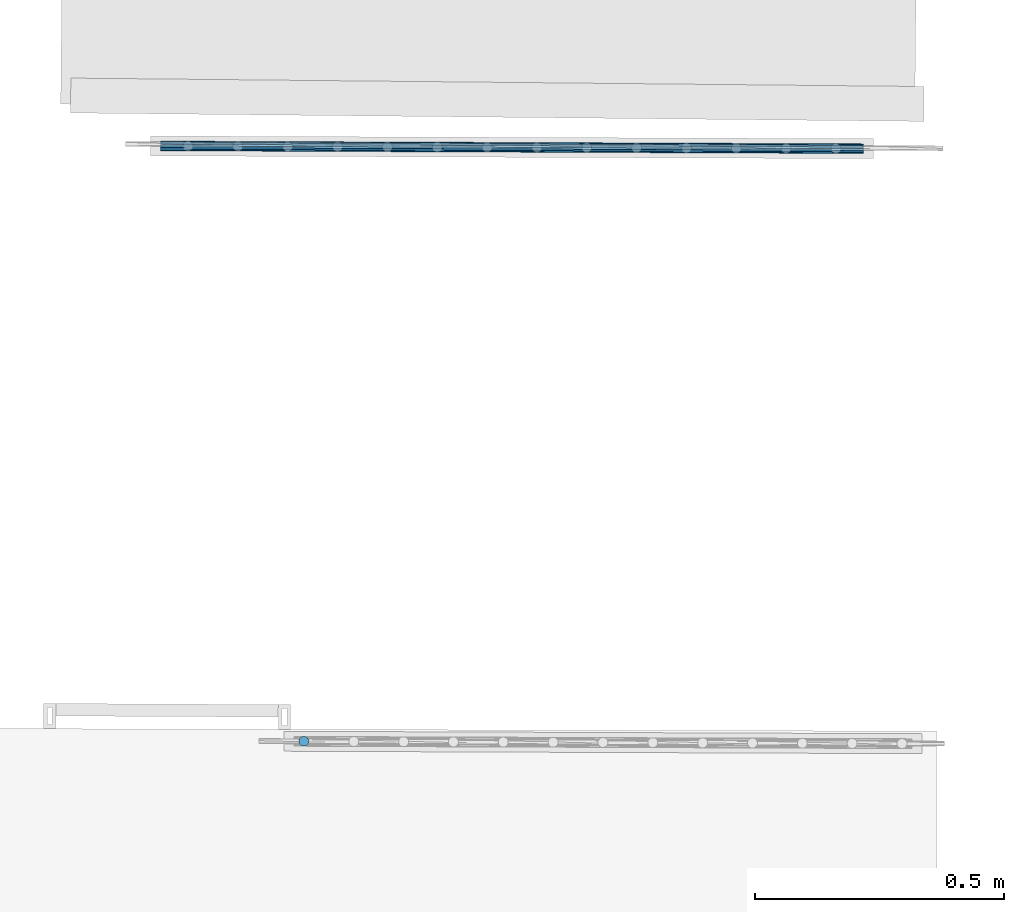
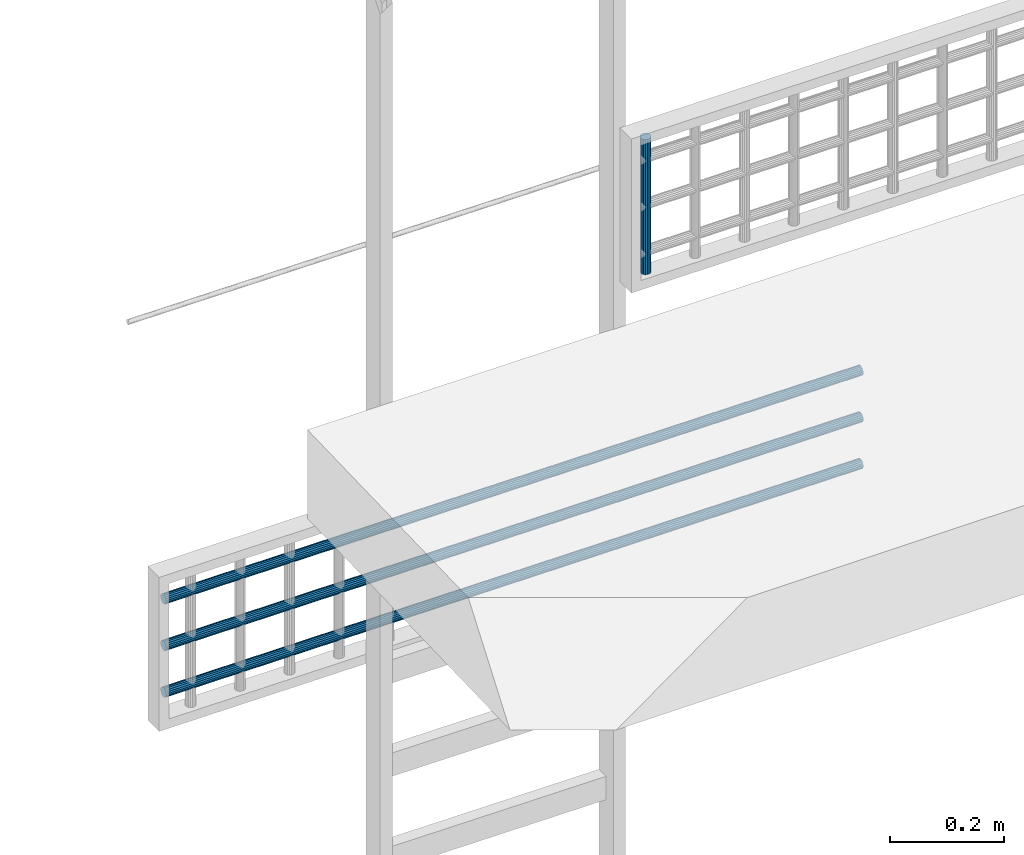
# One storey, part 14 of 39: 4 members, 2 elements without a shape of their own.
"""IFC2X3 building model written with IfcOpenShell, lengths in centimetres."""

from ifc_helpers import new_model, entity, si_unit, converted_unit, direction, frame, origin, origin_with_axes, place, context, subcontext, project, spatial, faceted_brep, material, type_object, element, aggregate, save


model = new_model("IFC2X3")

# Units and contexts
model_context = context("Model", 3, precision=0.0001, world=origin(), true_north=direction((0.225632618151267, 0.974212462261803, 0.0)))
body_context = subcontext(model_context, "Body", "Model", "MODEL_VIEW")
ifc_project = project(units=[si_unit("LENGTHUNIT", "METRE", prefix="CENTI"), si_unit("AREAUNIT", "SQUARE_METRE", prefix="CENTI"), si_unit("VOLUMEUNIT", "CUBIC_METRE", prefix="CENTI"), converted_unit("PLANEANGLEUNIT", "DEGREE", entity("IfcRatioMeasure", 0.0174532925), si_unit("PLANEANGLEUNIT", "RADIAN"), dimensions=[0, 0, 0, 0, 0, 0, 0])], contexts=[model_context])

# Site, building, storey
site_placement = place(None, origin_with_axes())
site = spatial("IfcSite", under=ifc_project, at=site_placement, Name="Default Site", CompositionType="ELEMENT")
building_placement = place(site_placement, origin_with_axes())
building = spatial("IfcBuilding", under=site, at=building_placement, Name="Default Building", CompositionType="ELEMENT")
storey_placement = place(building_placement, frame((0.0, 0.0, 1088.91037418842), z_axis=(0.0, 0.0, 1.0), x_axis=(1.0, 0.0, 0.0)))
storey = spatial("IfcBuildingStorey", under=building, at=storey_placement, Name="Mezzanine", CompositionType="ELEMENT", Elevation=1088.91037418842)

# Assembly, members
building_element_proxy_type = type_object("IfcBuildingElementProxyType", Name="Type Object", PredefinedType="NOTDEFINED")
assembly_1_placement = place(storey_placement, frame((1135.88365779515, -230.612962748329, -220.0), z_axis=(0.0, 0.0, 1.0), x_axis=(0.999992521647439, -0.00386738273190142, 0.0)))
assembly_1 = element("IfcElementAssembly", 1, at=assembly_1_placement, inside=storey, type_object=building_element_proxy_type, Name="Panneau 1519653", ObjectType="Precast panel", PredefinedType="USERDEFINED")
ifc_material = material(Name="Blanc trafic")
member_1_placement = place(assembly_1_placement, frame((142.99999475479, 0.342020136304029, 25.5603075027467), z_axis=(0.999999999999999, 3.440390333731e-14, 1.98632343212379e-14), x_axis=(3.97264686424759e-14, -0.866024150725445, -0.500002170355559)))
member_1 = element("IfcMember", 2, at=member_1_placement, material=ifc_material, Name="4294967251", context=body_context, shape_type="Brep", body=[
    faceted_brep([(-1.0547118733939e-13, -1.77635683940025e-13, 5.10702591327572e-13), (-0.347296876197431, -1.94289029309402e-13, 5.24499319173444e-13), (-0.673647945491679, -0.118779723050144, 5.37463953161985e-13), (-0.9396937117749, -0.342018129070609, 5.4803289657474e-13), (-1.11334216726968, -0.642784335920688, 5.54931261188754e-13), (-1.1736511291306, -0.984805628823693, 5.57327097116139e-13), (-1.11334356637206, -1.32682410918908, 5.54931316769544e-13), (-0.939696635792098, -1.62759289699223, 5.48033012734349e-13), (-0.673653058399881, -1.85083187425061, 5.37464156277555e-13), (-0.347301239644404, -1.96961451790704, 5.24499492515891e-13), (-4.36344708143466e-06, -1.96961451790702, 5.10702764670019e-13), (0.326346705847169, -1.85083479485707, 4.97738130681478e-13), (0.592392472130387, -1.62759638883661, 4.87169187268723e-13), (0.766040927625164, -1.32683018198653, 4.80270822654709e-13), (0.826349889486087, -0.984808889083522, 4.77874986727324e-13), (0.766042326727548, -0.642790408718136, 4.80270767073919e-13), (0.592395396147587, -0.342021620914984, 4.87169071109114e-13), (0.326351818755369, -0.118782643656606, 4.97737927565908e-13), (0.326351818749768, -0.118782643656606, -140.999994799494), (0.592395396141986, -0.342021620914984, -140.999994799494), (0.766042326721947, -0.642790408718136, -140.999994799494), (0.826349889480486, -0.984808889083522, -140.999994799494), (0.766040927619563, -1.32683018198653, -140.999994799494), (0.592392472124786, -1.62759638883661, -140.999994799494), (0.326346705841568, -1.85083479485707, -140.999994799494), (-4.36345268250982e-06, -1.96961451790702, -140.999994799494), (-0.347301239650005, -1.96961451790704, -140.999994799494), (-0.673653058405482, -1.85083187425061, -140.999994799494), (-0.939696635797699, -1.62759289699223, -140.999994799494), (-1.11334356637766, -1.32682410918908, -140.999994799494), (-1.1736511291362, -0.984805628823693, -140.999994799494), (-1.11334216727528, -0.642784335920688, -140.999994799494), (-0.939693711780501, -0.342018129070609, -140.999994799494), (-0.67364794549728, -0.118779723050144, -140.999994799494), (-0.347296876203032, -1.94289029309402e-13, -140.999994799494), (-5.7065463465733e-12, -1.77635683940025e-13, -140.999994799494), (0.326351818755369, -0.118782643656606, 4.88498130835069e-13), (0.592395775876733, -0.342021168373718, 4.6629365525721e-13), (0.592395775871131, -0.342021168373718, -140.999994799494), (0.326351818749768, -0.118782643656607, -140.999994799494), (0.592395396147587, -0.342021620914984, 4.66293670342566e-13), (0.766043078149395, -0.642789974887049, 4.66293640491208e-13), (0.766043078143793, -0.642789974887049, -140.999994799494), (0.592395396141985, -0.342021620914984, -140.999994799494), (0.766042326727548, -0.642790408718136, 4.66293670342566e-13), (0.82634857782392, -0.984809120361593, 4.66293722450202e-13), (0.826348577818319, -0.984809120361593, -140.999994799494), (0.766042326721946, -0.642790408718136, -140.999994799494), (0.826349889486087, -0.984808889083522, 4.66293670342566e-13), (0.766041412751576, -1.32683026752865, 4.66293651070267e-13), (0.766041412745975, -1.32683026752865, -140.999994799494), (0.766040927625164, -1.32683018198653, 4.66293670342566e-13), (0.592392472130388, -1.62759638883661, 4.66293670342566e-13), (0.592392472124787, -1.62759638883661, -140.999994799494), (0.592392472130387, -1.62759638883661, 4.66293670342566e-13), (0.326346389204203, -1.85083441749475, 4.88498143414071e-13), (0.326346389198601, -1.85083441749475, -140.999994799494), (0.592392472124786, -1.6275963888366, -140.999994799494), (0.326346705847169, -1.85083479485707, 4.88498130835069e-13), (-3.90791495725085e-06, -1.96961576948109, 4.8849811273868e-13), (-3.90792055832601e-06, -1.96961576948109, -140.999994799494), (-4.36344708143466e-06, -1.96961451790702, 4.88498130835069e-13), (-0.347301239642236, -1.96961365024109, 5.10702591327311e-13), (-0.347301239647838, -1.96961365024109, -140.999994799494), (-0.347301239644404, -1.96961451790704, 5.10702591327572e-13), (-0.673652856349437, -1.8508313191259, 5.3290704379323e-13), (-0.673652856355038, -1.8508313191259, -140.999994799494), (-0.673653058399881, -1.85083187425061, 5.32907051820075e-13), (-0.939697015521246, -1.6275933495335, 5.55111527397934e-13), (-0.939697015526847, -1.6275933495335, -140.999994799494), (-0.939696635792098, -1.62759289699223, 5.55111512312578e-13), (-1.11334431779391, -1.32682454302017, 5.32907081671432e-13), (-1.11334431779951, -1.32682454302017, -140.999994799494), (-1.11334356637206, -1.32682410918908, 5.32907051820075e-13), (-1.17364981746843, -0.984805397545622, 5.32906999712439e-13), (-1.17364981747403, -0.984805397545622, -140.999994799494), (-1.1736511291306, -0.984805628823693, 5.32907051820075e-13), (-1.11334265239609, -0.642784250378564, 5.55111531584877e-13), (-1.11334265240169, -0.642784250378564, -140.999994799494), (-1.11334216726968, -0.642784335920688, 5.55111512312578e-13), (-0.939693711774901, -0.342018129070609, 5.55111512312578e-13), (-0.939693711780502, -0.342018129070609, -140.999994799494), (-0.9396937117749, -0.342018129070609, 5.55111512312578e-13), (-0.673647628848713, -0.118780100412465, 5.1070257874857e-13), (-0.673647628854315, -0.118780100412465, -140.999994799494), (-0.673647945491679, -0.118779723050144, 5.10702591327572e-13), (-0.347297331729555, 1.25157387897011e-06, 5.10702609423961e-13), (-0.347297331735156, 1.25157387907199e-06, -140.999994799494), (-0.347296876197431, -1.94289029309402e-13, 5.10702591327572e-13), (-2.27319637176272e-12, -8.67666126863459e-07, 5.10702591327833e-13), (-7.87427153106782e-12, -8.67666126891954e-07, -140.999994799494), (-0.347296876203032, -1.9431752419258e-13, -140.999994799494), (0.326351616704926, -0.118783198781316, 4.88498138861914e-13), (0.326351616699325, -0.118783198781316, -140.999994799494), (-5.70659576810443e-12, -1.77771467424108e-13, -140.999994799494)], [[[0, 1, 2, 3, 4, 5, 6, 7, 8, 9, 10, 11, 12, 13, 14, 15, 16, 17]], [[18, 19, 20, 21, 22, 23, 24, 25, 26, 27, 28, 29, 30, 31, 32, 33, 34, 35]], [[36, 37, 38, 39]], [[40, 41, 42, 43]], [[44, 45, 46, 47]], [[48, 49, 50, 21]], [[51, 52, 53, 22]], [[54, 55, 56, 57]], [[58, 59, 60, 24]], [[61, 62, 63, 25]], [[64, 65, 66, 26]], [[67, 68, 69, 27]], [[70, 71, 72, 28]], [[73, 74, 75, 29]], [[76, 77, 78, 30]], [[79, 80, 81, 31]], [[82, 83, 84, 32]], [[85, 86, 87, 33]], [[88, 89, 90, 91]], [[0, 92, 93, 94]]]),
])
member_2_placement = place(assembly_1_placement, frame((142.99999475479, 0.342020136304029, 15.5603080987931), z_axis=(0.999999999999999, 3.4404337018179e-14, 1.98632343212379e-14), x_axis=(3.97269023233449e-14, -0.866026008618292, -0.49999895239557)))
member_2 = element("IfcMember", 3, at=member_2_placement, material=ifc_material, Name="4294967250", context=body_context, shape_type="Brep", body=[
    faceted_brep([(-1.09634523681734e-13, -1.85962356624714e-13, 3.33066907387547e-13), (-0.347296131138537, -2.02615701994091e-13, 3.46863756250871e-13), (-0.673647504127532, -0.118782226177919, 3.59828518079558e-13), (-0.939691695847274, -0.342020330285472, 3.70397465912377e-13), (-1.11333977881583, -0.64278847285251, 3.77295825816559e-13), (-1.17364672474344, -0.984808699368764, 3.79691533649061e-13), (-1.11333863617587, -1.32682824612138, 3.77295632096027e-13), (-0.939690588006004, -1.6275963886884, 3.70397143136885e-13), (-0.673645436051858, -1.85083308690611, 3.59828060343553e-13), (-0.347293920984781, -1.96961580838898, 3.46863241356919e-13), (2.95521014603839e-06, -1.96961451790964, 3.33066362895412e-13), (0.32635432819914, -1.85083229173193, 3.20101601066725e-13), (0.592398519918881, -1.62759418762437, 3.09532653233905e-13), (0.766046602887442, -1.32682604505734, 3.02634293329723e-13), (0.82635354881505, -0.984805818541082, 3.00238585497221e-13), (0.766045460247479, -0.642786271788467, 3.02634487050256e-13), (0.592396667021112, -0.342019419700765, 3.09533005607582e-13), (0.326352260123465, -0.118781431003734, 3.2010205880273e-13), (0.326352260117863, -0.118781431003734, -140.999994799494), (0.59239666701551, -0.342019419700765, -140.999994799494), (0.766045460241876, -0.642786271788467, -140.999994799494), (0.826353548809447, -0.984805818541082, -140.999994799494), (0.76604660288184, -1.32682604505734, -140.999994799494), (0.592398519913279, -1.62759418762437, -140.999994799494), (0.326354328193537, -1.85083229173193, -140.999994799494), (2.95520454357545e-06, -1.96961451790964, -140.999994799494), (-0.347293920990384, -1.96961580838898, -140.999994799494), (-0.67364543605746, -1.85083308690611, -140.999994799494), (-0.939690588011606, -1.6275963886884, -140.999994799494), (-1.11333863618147, -1.32682824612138, -140.999994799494), (-1.17364672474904, -0.984808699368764, -140.999994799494), (-1.11333977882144, -0.64278847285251, -140.999994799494), (-0.939691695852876, -0.342020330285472, -140.999994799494), (-0.673647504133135, -0.118782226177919, -140.999994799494), (-0.34729613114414, -2.02615701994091e-13, -140.999994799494), (-5.71209746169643e-12, -1.85962356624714e-13, -140.999994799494), (0.326352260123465, -0.118781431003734, 3.10862446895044e-13), (0.592397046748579, -0.342018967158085, 2.88657971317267e-13), (0.592397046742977, -0.342018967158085, -140.999994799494), (0.326352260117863, -0.118781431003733, -140.999994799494), (0.592396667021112, -0.342019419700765, 2.88657986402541e-13), (0.766045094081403, -0.642786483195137, 2.8865800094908e-13), (0.766045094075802, -0.642786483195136, -140.999994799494), (0.592396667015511, -0.342019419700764, -140.999994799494), (0.766045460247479, -0.642786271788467, 2.88657986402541e-13), (0.826353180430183, -0.984805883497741, 2.88658001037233e-13), (0.826353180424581, -0.984805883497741, -140.999994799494), (0.766045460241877, -0.642786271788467, -140.999994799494), (0.82635354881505, -0.984805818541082, 2.88657986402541e-13), (0.766046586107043, -1.32682604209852, 2.8865798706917e-13), (0.766046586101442, -1.32682604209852, -140.999994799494), (0.826353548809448, -0.984805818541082, -140.999994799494), (0.766046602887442, -1.32682604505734, 2.88657986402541e-13), (0.592398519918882, -1.62759418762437, 2.88657986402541e-13), (0.59239851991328, -1.62759418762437, -140.999994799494), (0.766046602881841, -1.32682604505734, -140.999994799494), (0.592398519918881, -1.62759418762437, 2.88657986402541e-13), (0.32635433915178, -1.85083230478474, 3.10862446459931e-13), (0.326354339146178, -1.85083230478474, -140.999994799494), (0.32635432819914, -1.85083229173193, 3.10862446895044e-13), (3.08314931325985e-06, -1.96961486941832, 3.1086244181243e-13), (3.08314371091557e-06, -1.96961486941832, -140.999994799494), (2.95521014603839e-06, -1.96961451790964, 3.10862446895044e-13), (-0.347293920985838, -1.96961494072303, 3.33066907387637e-13), (-0.34729392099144, -1.96961494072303, -140.999994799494), (-0.347293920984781, -1.96961580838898, 3.33066907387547e-13), (-0.673645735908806, -1.85083391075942, 3.55271379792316e-13), (-0.673645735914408, -1.85083391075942, -140.999994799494), (-0.673645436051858, -1.85083308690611, 3.5527136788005e-13), (-0.939690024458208, -1.62759571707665, 3.77475805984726e-13), (-0.93969002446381, -1.62759571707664, -140.999994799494), (-0.939690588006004, -1.6275963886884, 3.77475828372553e-13), (-1.11333938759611, -1.32682867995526, 3.55271397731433e-13), (-1.11333938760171, -1.32682867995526, -140.999994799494), (-1.11333863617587, -1.32682824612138, 3.5527136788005e-13), (-1.17364635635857, -0.984808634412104, 3.55271353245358e-13), (-1.17364635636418, -0.984808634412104, -140.999994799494), (-1.17364672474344, -0.984808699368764, 3.5527136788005e-13), (-1.11333976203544, -0.642788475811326, 3.77475827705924e-13), (-1.11333976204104, -0.642788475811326, -140.999994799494), (-1.11333977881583, -0.64278847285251, 3.77475828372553e-13), (-0.939691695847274, -0.342020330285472, 3.77475828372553e-13), (-0.673647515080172, -0.118782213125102, 3.33066907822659e-13), (-0.673647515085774, -0.118782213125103, -140.999994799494), (-0.939691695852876, -0.342020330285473, -140.999994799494), (-0.673647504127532, -0.118782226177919, 3.33066907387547e-13), (-0.347296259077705, 3.51508473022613e-07, 3.3306691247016e-13), (-0.347296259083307, 3.51508472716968e-07, -140.999994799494), (-0.347296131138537, -2.02615701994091e-13, 3.33066907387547e-13), (-6.24383656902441e-13, 4.22812272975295e-07, 3.33066907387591e-13), (-6.22684659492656e-12, 4.22812272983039e-07, -140.999994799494), (-0.34729613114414, -2.02607958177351e-13, -140.999994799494), (0.326352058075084, -0.118781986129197, 3.10862454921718e-13), (0.326352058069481, -0.118781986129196, -140.999994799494), (-5.71197730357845e-12, -1.8563222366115e-13, -140.999994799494)], [[[0, 1, 2, 3, 4, 5, 6, 7, 8, 9, 10, 11, 12, 13, 14, 15, 16, 17]], [[18, 19, 20, 21, 22, 23, 24, 25, 26, 27, 28, 29, 30, 31, 32, 33, 34, 35]], [[36, 37, 38, 39]], [[40, 41, 42, 43]], [[44, 45, 46, 47]], [[48, 49, 50, 51]], [[52, 53, 54, 55]], [[56, 57, 58, 23]], [[59, 60, 61, 24]], [[62, 63, 64, 25]], [[65, 66, 67, 26]], [[68, 69, 70, 27]], [[71, 72, 73, 28]], [[74, 75, 76, 29]], [[77, 78, 79, 30]], [[80, 81, 32, 31]], [[81, 82, 83, 84]], [[85, 86, 87, 33]], [[88, 89, 90, 91]], [[0, 92, 93, 94]]]),
])
member_3_placement = place(assembly_1_placement, frame((142.99999475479, 0.342020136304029, 5.5603072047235), z_axis=(0.999999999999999, 3.4404337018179e-14, 1.98634511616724e-14), x_axis=(3.97269023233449e-14, -0.866025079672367, -0.500000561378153)))
member_3 = element("IfcMember", 4, at=member_3_placement, material=ifc_material, Name="4294967249", context=body_context, shape_type="Brep", body=[
    faceted_brep([(4.16333634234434e-14, -2.42861286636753e-13, 6.66133814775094e-14), (-0.347296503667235, -2.60902410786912e-13, 8.0410546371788e-14), (-0.673648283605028, -0.118781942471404, 9.337563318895e-14), (-0.93969307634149, -0.342019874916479, 1.03944884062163e-13), (-1.11334134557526, -0.642787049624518, 1.10843467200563e-13), (-1.17364892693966, -0.984807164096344, 1.13239326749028e-13), (-1.11334184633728, -1.32682746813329, 1.10843487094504e-13), (-0.939693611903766, -1.62759464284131, 1.03944905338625e-13), (-0.67364961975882, -1.85083312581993, 9.33756862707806e-14), (-0.34729758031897, -1.96961516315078, 8.04105891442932e-14), (-1.44918114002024e-06, -1.96961580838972, 6.66134390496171e-14), (0.326350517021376, -1.8508335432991, 5.36483448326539e-14), (0.592395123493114, -1.62759593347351, 4.30791013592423e-14), (0.76604339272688, -1.32682875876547, 3.61805182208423e-14), (0.826351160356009, -0.984808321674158, 3.37846512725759e-14), (0.766043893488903, -0.642788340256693, 3.61804983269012e-14), (0.592396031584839, -0.342020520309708, 4.30790652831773e-14), (0.326351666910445, -0.118782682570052, 5.36482991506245e-14), (0.326351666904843, -0.118782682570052, -140.999994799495), (0.592396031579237, -0.342020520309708, -140.999994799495), (0.766043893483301, -0.642788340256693, -140.999994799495), (0.826351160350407, -0.984808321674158, -140.999994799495), (0.766043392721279, -1.32682875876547, -140.999994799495), (0.592395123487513, -1.62759593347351, -140.999994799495), (0.326350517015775, -1.8508335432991, -140.999994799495), (-1.4491867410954e-06, -1.96961580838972, -140.999994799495), (-0.347297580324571, -1.96961516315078, -140.999994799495), (-0.673649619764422, -1.85083312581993, -140.999994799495), (-0.939693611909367, -1.62759464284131, -140.999994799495), (-1.11334184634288, -1.32682746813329, -140.999994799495), (-1.17364892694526, -0.984807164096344, -140.999994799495), (-1.11334134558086, -0.642787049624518, -140.999994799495), (-0.939693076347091, -0.342019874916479, -140.999994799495), (-0.673648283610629, -0.118781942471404, -140.999994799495), (-0.347296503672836, -2.60902410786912e-13, -140.999994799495), (-5.55978874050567e-12, -2.42861286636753e-13, -140.999994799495), (0.326351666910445, -0.118782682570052, 4.44089209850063e-14), (0.592395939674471, -0.342020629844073, 2.22044641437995e-14), (0.592395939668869, -0.342020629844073, -140.999994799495), (0.592396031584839, -0.342020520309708, 2.22044604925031e-14), (0.766044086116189, -0.642788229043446, 2.22044528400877e-14), (0.766044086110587, -0.642788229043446, -140.999994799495), (0.766043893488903, -0.642788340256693, 2.22044604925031e-14), (0.826351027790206, -0.984808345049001, 2.2204465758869e-14), (0.826351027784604, -0.984808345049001, -140.999994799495), (0.826351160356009, -0.984808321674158, 2.22044604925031e-14), (0.766043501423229, -1.32682877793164, 2.2204456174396e-14), (0.766043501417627, -1.32682877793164, -140.999994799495), (0.76604339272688, -1.32682875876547, 2.22044604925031e-14), (0.592395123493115, -1.62759593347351, 2.22044604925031e-14), (0.592395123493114, -1.62759593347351, 2.22044604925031e-14), (0.326350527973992, -1.85083355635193, 4.44089205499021e-14), (0.32635052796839, -1.85083355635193, -140.999994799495), (0.326350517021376, -1.8508335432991, 4.44089209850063e-14), (-1.48504059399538e-06, -1.96961570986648, 4.44089224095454e-14), (-1.48504619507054e-06, -1.96961570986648, -140.999994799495), (-1.44918114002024e-06, -1.96961580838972, 4.44089209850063e-14), (-0.347297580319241, -1.96961558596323, 6.66133814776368e-14), (-0.347297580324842, -1.96961558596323, -140.999994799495), (-0.34729758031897, -1.96961516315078, 6.66133814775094e-14), (-0.673649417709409, -1.85083257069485, 8.88178339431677e-14), (-0.67364941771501, -1.85083257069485, -140.999994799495), (-0.67364961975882, -1.85083312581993, 8.88178419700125e-14), (-0.939693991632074, -1.62759509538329, 1.11022317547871e-13), (-0.939693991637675, -1.62759509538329, -140.999994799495), (-0.939693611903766, -1.62759464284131, 1.11022302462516e-13), (-1.11334148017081, -1.3268272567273, 8.8817827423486e-14), (-1.11334148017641, -1.3268272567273, -140.999994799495), (-1.11334184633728, -1.32682746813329, 8.88178419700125e-14), (-1.17364903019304, -0.984807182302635, 8.88178460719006e-14), (-1.17364903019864, -0.984807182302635, -140.999994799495), (-1.17364892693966, -0.984807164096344, 8.88178419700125e-14), (-1.11334132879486, -0.642787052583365, 1.11022301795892e-13), (-1.11334132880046, -0.642787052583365, -140.999994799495), (-1.11334134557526, -0.642787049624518, 1.11022302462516e-13), (-0.93969307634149, -0.342019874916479, 1.11022302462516e-13), (-0.673648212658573, -0.11878202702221, 6.66133786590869e-14), (-0.673648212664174, -0.11878202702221, -140.999994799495), (-0.673648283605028, -0.118781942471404, 6.66133814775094e-14), (-0.347296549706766, 1.26492572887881e-07, 6.66133833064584e-14), (-0.347296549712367, 1.26492572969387e-07, -140.999994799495), (-0.347296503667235, -2.60902410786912e-13, 6.66133814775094e-14), (-1.00820283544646e-13, -2.22426989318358e-07, 6.66133814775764e-14), (-5.70224238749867e-12, -2.22426989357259e-07, -140.999994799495), (-0.347296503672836, -2.60941311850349e-13, -140.999994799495), (0.326351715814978, -0.11878254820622, 4.44089190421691e-14), (0.326351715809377, -0.11878254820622, -140.999994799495), (-5.55980092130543e-12, -2.42894753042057e-13, -140.999994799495)], [[[0, 1, 2, 3, 4, 5, 6, 7, 8, 9, 10, 11, 12, 13, 14, 15, 16, 17]], [[18, 19, 20, 21, 22, 23, 24, 25, 26, 27, 28, 29, 30, 31, 32, 33, 34, 35]], [[36, 37, 38, 18]], [[39, 40, 41, 19]], [[42, 43, 44, 20]], [[45, 46, 47, 21]], [[48, 49, 23, 22]], [[50, 51, 52, 23]], [[53, 54, 55, 24]], [[56, 57, 58, 25]], [[59, 60, 61, 26]], [[62, 63, 64, 27]], [[65, 66, 67, 28]], [[68, 69, 70, 29]], [[71, 72, 73, 30]], [[74, 75, 32, 31]], [[75, 76, 77, 32]], [[78, 79, 80, 33]], [[81, 82, 83, 84]], [[0, 85, 86, 87]]]),
])
aggregate(assembly_1, [member_1, member_2, member_3])

# Assembly, member
assembly_2_placement = place(storey_placement, frame((1162.63, -350.05, -63.0000000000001), z_axis=(0.0, 0.0, 1.0), x_axis=(0.999992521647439, -0.00386738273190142, 0.0)))
assembly_2 = element("IfcElementAssembly", 5, at=assembly_2_placement, inside=storey, type_object=building_element_proxy_type, Name="Panneau 1519648", ObjectType="Precast panel", PredefinedType="USERDEFINED")
member_4_placement = place(assembly_2_placement, frame((4.93969246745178, 0.342020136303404, 31.0000002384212), z_axis=(0.0, 0.0, 0.999999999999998), x_axis=(0.499999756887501, -0.866025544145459, 0.0)))
member_4 = element("IfcMember", 6, at=member_4_placement, material=ifc_material, Name="4294967224", context=body_context, shape_type="Brep", body=[
    faceted_brep([(-2.15695517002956e-12, -2.17048601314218e-12, -2.57016630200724e-12), (-0.347296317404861, -2.19199658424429e-12, -2.57016630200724e-12), (-0.673647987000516, -0.118782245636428, -2.57016630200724e-12), (-0.93969238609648, -0.342020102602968, -2.57016630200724e-12), (-1.11334056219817, -0.642787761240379, -2.57016630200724e-12), (-1.17364782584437, -0.984807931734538, -2.57016630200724e-12), (-1.11334042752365, -1.32682817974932, -2.57016630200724e-12), (-0.939692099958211, -1.62759551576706, -2.57016630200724e-12), (-0.673647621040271, -1.85083326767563, -2.57016630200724e-12), (-0.347295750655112, -1.96961548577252, -2.57016630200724e-12), (5.66747591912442e-07, -1.9696154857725, -2.57016630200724e-12), (0.326352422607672, -1.8508329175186, -2.57016630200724e-12), (0.592396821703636, -1.62759506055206, -2.57016630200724e-12), (0.766044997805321, -1.32682740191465, -2.57016630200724e-12), (0.826352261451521, -0.984807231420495, -2.57016630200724e-12), (0.766044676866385, -0.642787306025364, -2.57016630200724e-12), (0.592396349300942, -0.342019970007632, -2.57016630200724e-12), (0.326351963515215, -0.118782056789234, -2.57016630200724e-12), (0.326351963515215, -0.118782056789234, -29.0000002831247), (0.592396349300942, -0.342019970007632, -29.0000002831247), (0.766044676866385, -0.642787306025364, -29.0000002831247), (0.826352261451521, -0.984807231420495, -29.0000002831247), (0.766044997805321, -1.32682740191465, -29.0000002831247), (0.592396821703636, -1.62759506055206, -29.0000002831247), (0.326352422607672, -1.8508329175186, -29.0000002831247), (5.66747591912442e-07, -1.9696154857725, -29.0000002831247), (-0.347295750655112, -1.96961548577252, -29.0000002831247), (-0.673647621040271, -1.85083326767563, -29.0000002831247), (-0.939692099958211, -1.62759551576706, -29.0000002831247), (-1.11334042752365, -1.32682817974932, -29.0000002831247), (-1.17364782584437, -0.984807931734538, -29.0000002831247), (-1.11334056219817, -0.642787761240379, -29.0000002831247), (-0.93969238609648, -0.342020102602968, -29.0000002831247), (-0.673647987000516, -0.118782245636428, -29.0000002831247), (-0.347296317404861, -2.19199658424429e-12, -29.0000002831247), (-2.15695517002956e-12, -2.17048601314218e-12, -29.0000002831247), (0.592396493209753, -0.342019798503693, -2.57016630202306e-12), (0.592396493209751, -0.342019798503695, -29.0000002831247), (0.326351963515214, -0.118782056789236, -29.0000002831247), (0.76604459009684, -0.642787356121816, -2.57016630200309e-12), (0.766044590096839, -0.642787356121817, -29.0000002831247), (0.592396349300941, -0.342019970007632, -29.0000002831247), (0.82635212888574, -0.98480725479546, -2.5701663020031e-12), (0.826352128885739, -0.98480725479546, -29.0000002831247), (0.766044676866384, -0.642787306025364, -29.0000002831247), (0.766044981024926, -1.32682739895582, -2.57016630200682e-12), (0.766044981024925, -1.32682739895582, -29.0000002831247), (0.82635226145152, -0.984807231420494, -29.0000002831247), (0.3263524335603, -1.85083293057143, -2.57016630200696e-12), (0.3263524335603, -1.85083293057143, -29.0000002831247), (0.592396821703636, -1.62759506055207, -29.0000002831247), (5.30888046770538e-07, -1.96961538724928, -2.57016630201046e-12), (5.30888047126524e-07, -1.96961538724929, -29.0000002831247), (0.326352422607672, -1.85083291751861, -29.0000002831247), (-0.347295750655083, -1.96961558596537, -2.57016630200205e-12), (-0.347295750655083, -1.96961558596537, -29.0000002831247), (-0.673647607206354, -1.85083322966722, -2.57016630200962e-12), (-0.673647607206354, -1.85083322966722, -29.0000002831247), (-0.347295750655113, -1.96961548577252, -29.0000002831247), (-0.939692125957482, -1.6275955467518, -2.57016630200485e-12), (-0.939692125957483, -1.6275955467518, -29.0000002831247), (-0.673647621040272, -1.85083326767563, -29.0000002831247), (-1.11334034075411, -1.32682812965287, -2.57016630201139e-12), (-1.11334034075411, -1.32682812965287, -29.0000002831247), (-0.939692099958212, -1.62759551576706, -29.0000002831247), (-1.17364792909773, -0.984807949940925, -2.5701663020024e-12), (-1.17364792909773, -0.984807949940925, -29.0000002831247), (-1.11334042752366, -1.32682817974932, -29.0000002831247), (-1.11334054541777, -0.642787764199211, -2.57016630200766e-12), (-1.11334054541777, -0.642787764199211, -29.0000002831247), (-1.17364782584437, -0.984807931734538, -29.0000002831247), (-0.673647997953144, -0.118782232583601, -2.57016630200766e-12), (-0.673647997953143, -0.118782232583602, -29.0000002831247), (-0.347296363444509, 1.26490599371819e-07, -2.57016630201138e-12), (-0.347296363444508, 1.26490598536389e-07, -29.0000002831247), (-0.673647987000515, -0.118782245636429, -29.0000002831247), (-2.185860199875e-12, 1.00190684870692e-07, -2.57016630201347e-12), (-2.18586019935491e-12, 1.00190683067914e-07, -29.0000002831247), (-0.347296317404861, -2.19379936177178e-12, -29.0000002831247), (0.326351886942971, -0.118782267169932, -2.57016630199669e-12), (0.326351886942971, -0.118782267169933, -29.0000002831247), (-2.1574226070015e-12, -2.17177028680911e-12, -29.0000002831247)], [[[0, 1, 2, 3, 4, 5, 6, 7, 8, 9, 10, 11, 12, 13, 14, 15, 16, 17]], [[18, 19, 20, 21, 22, 23, 24, 25, 26, 27, 28, 29, 30, 31, 32, 33, 34, 35]], [[17, 36, 37, 38]], [[16, 39, 40, 41]], [[15, 42, 43, 44]], [[14, 45, 46, 47]], [[13, 12, 23, 22]], [[12, 48, 49, 50]], [[11, 51, 52, 53]], [[10, 54, 55, 25]], [[9, 56, 57, 58]], [[8, 59, 60, 61]], [[7, 62, 63, 64]], [[6, 65, 66, 67]], [[5, 68, 69, 70]], [[4, 3, 32, 31]], [[3, 71, 72, 32]], [[2, 73, 74, 75]], [[1, 76, 77, 78]], [[0, 79, 80, 81]]]),
])
aggregate(assembly_2, [member_4])

save(model, "model.ifc")
